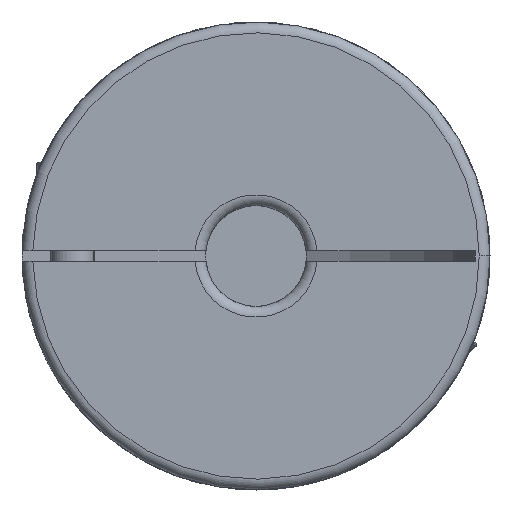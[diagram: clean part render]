
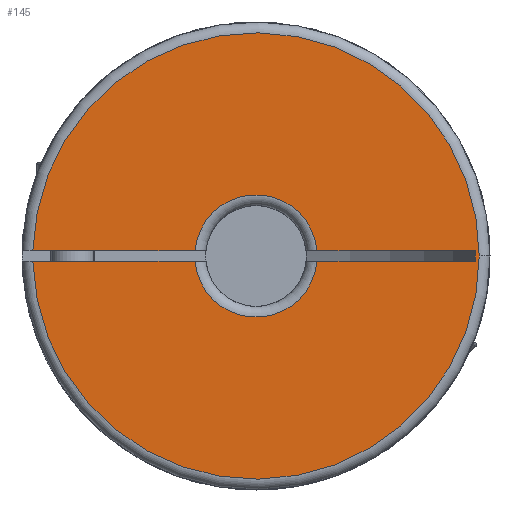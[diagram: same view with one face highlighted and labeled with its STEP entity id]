
A CAD part, front view. The second image highlights one B-rep face of the part: STEP entity #145.
In plain terms, the highlighted planar face has unit normal (0, -1, 0).
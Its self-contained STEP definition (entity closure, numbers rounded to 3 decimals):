
#145 = ADVANCED_FACE ( 'NONE', ( #8268 ), #6515, .F. ) ;
#190 = EDGE_CURVE ( 'NONE', #398, #6840, #6152, .T. ) ;
#200 = DIRECTION ( 'NONE',  ( -1., 0., 0. ) ) ;
#313 = AXIS2_PLACEMENT_3D ( 'NONE', #1148, #7334, #200 ) ;
#364 = CIRCLE ( 'NONE', #4212, 31. ) ;
#398 = VERTEX_POINT ( 'NONE', #9767 ) ;
#506 = EDGE_CURVE ( 'NONE', #3814, #9651, #7463, .T. ) ;
#574 = DIRECTION ( 'NONE',  ( 1., 0., 0. ) ) ;
#1030 = DIRECTION ( 'NONE',  ( 1., 0., 0. ) ) ;
#1148 = CARTESIAN_POINT ( 'NONE',  ( -8.5, -36.15, 0. ) ) ;
#1287 = DIRECTION ( 'NONE',  ( 1., 0., 0. ) ) ;
#1358 = DIRECTION ( 'NONE',  ( 1., 0., 0. ) ) ;
#1436 = ORIENTED_EDGE ( 'NONE', *, *, #506, .F. ) ;
#1501 = CARTESIAN_POINT ( 'NONE',  ( 8.467, -36.15, -0.75 ) ) ;
#1547 = VECTOR ( 'NONE', #3964, 1000. ) ;
#1947 = DIRECTION ( 'NONE',  ( 1., 0., 0. ) ) ;
#1951 = CARTESIAN_POINT ( 'NONE',  ( 0., -36.15, 0. ) ) ;
#2241 = DIRECTION ( 'NONE',  ( 1., 0., 0. ) ) ;
#2344 = VERTEX_POINT ( 'NONE', #4415 ) ;
#2455 = VERTEX_POINT ( 'NONE', #3996 ) ;
#2536 = VECTOR ( 'NONE', #1287, 1000. ) ;
#2567 = VECTOR ( 'NONE', #7828, 1000. ) ;
#2584 = AXIS2_PLACEMENT_3D ( 'NONE', #1951, #2637, #1030 ) ;
#2637 = DIRECTION ( 'NONE',  ( 0., -1., 0. ) ) ;
#2671 = ORIENTED_EDGE ( 'NONE', *, *, #8209, .F. ) ;
#2747 = CARTESIAN_POINT ( 'NONE',  ( -30.991, -36.15, 0.75 ) ) ;
#2840 = LINE ( 'NONE', #8609, #2536 ) ;
#2967 = CARTESIAN_POINT ( 'NONE',  ( 30.452, -36.15, -0.75 ) ) ;
#3003 = CARTESIAN_POINT ( 'NONE',  ( 30.452, -36.15, -0.75 ) ) ;
#3675 = LINE ( 'NONE', #9919, #8535 ) ;
#3747 = VERTEX_POINT ( 'NONE', #2747 ) ;
#3777 = ORIENTED_EDGE ( 'NONE', *, *, #8080, .T. ) ;
#3814 = VERTEX_POINT ( 'NONE', #1501 ) ;
#3964 = DIRECTION ( 'NONE',  ( 0., 0., -1. ) ) ;
#3996 = CARTESIAN_POINT ( 'NONE',  ( -30.991, -36.15, -0.75 ) ) ;
#4128 = EDGE_CURVE ( 'NONE', #3747, #6840, #3675, .T. ) ;
#4212 = AXIS2_PLACEMENT_3D ( 'NONE', #7911, #6198, #574 ) ;
#4316 = ORIENTED_EDGE ( 'NONE', *, *, #7320, .T. ) ;
#4369 = CIRCLE ( 'NONE', #7851, 8.5 ) ;
#4415 = CARTESIAN_POINT ( 'NONE',  ( 31., -36.15, 0. ) ) ;
#4506 = ORIENTED_EDGE ( 'NONE', *, *, #10055, .F. ) ;
#4667 = LINE ( 'NONE', #6273, #2567 ) ;
#4786 = ORIENTED_EDGE ( 'NONE', *, *, #7505, .T. ) ;
#5039 = CARTESIAN_POINT ( 'NONE',  ( -8.467, -36.15, 0.75 ) ) ;
#5315 = VERTEX_POINT ( 'NONE', #9870 ) ;
#5544 = VECTOR ( 'NONE', #9035, 1000. ) ;
#5895 = ORIENTED_EDGE ( 'NONE', *, *, #190, .F. ) ;
#6040 = DIRECTION ( 'NONE',  ( 0., -1., 0. ) ) ;
#6095 = VERTEX_POINT ( 'NONE', #6310 ) ;
#6145 = CARTESIAN_POINT ( 'NONE',  ( 0., -36.15, 0. ) ) ;
#6152 = CIRCLE ( 'NONE', #7467, 8.5 ) ;
#6198 = DIRECTION ( 'NONE',  ( 0., -1., 0. ) ) ;
#6273 = CARTESIAN_POINT ( 'NONE',  ( -8.5, -36.15, -0.75 ) ) ;
#6310 = CARTESIAN_POINT ( 'NONE',  ( 30.452, -36.15, 0.75 ) ) ;
#6343 = EDGE_LOOP ( 'NONE', ( #4506, #4316, #7444, #7299, #5895, #4786, #3777, #1436, #2671 ) ) ;
#6515 = PLANE ( 'NONE',  #313 ) ;
#6640 = CARTESIAN_POINT ( 'NONE',  ( -8.5, -36.15, -0.75 ) ) ;
#6840 = VERTEX_POINT ( 'NONE', #5039 ) ;
#6927 = DIRECTION ( 'NONE',  ( 0., -1., 0. ) ) ;
#6975 = LINE ( 'NONE', #2967, #1547 ) ;
#7299 = ORIENTED_EDGE ( 'NONE', *, *, #4128, .T. ) ;
#7320 = EDGE_CURVE ( 'NONE', #2455, #2344, #7798, .T. ) ;
#7334 = DIRECTION ( 'NONE',  ( 0., 1., 0. ) ) ;
#7444 = ORIENTED_EDGE ( 'NONE', *, *, #8203, .T. ) ;
#7463 = LINE ( 'NONE', #6640, #5544 ) ;
#7467 = AXIS2_PLACEMENT_3D ( 'NONE', #6145, #6040, #1358 ) ;
#7505 = EDGE_CURVE ( 'NONE', #398, #6095, #2840, .T. ) ;
#7798 = CIRCLE ( 'NONE', #2584, 31. ) ;
#7828 = DIRECTION ( 'NONE',  ( 1., 0., 0. ) ) ;
#7851 = AXIS2_PLACEMENT_3D ( 'NONE', #9370, #6927, #2241 ) ;
#7911 = CARTESIAN_POINT ( 'NONE',  ( 0., -36.15, 0. ) ) ;
#8080 = EDGE_CURVE ( 'NONE', #6095, #9651, #6975, .T. ) ;
#8203 = EDGE_CURVE ( 'NONE', #2344, #3747, #364, .T. ) ;
#8209 = EDGE_CURVE ( 'NONE', #5315, #3814, #4369, .T. ) ;
#8268 = FACE_OUTER_BOUND ( 'NONE', #6343, .T. ) ;
#8535 = VECTOR ( 'NONE', #1947, 1000. ) ;
#8609 = CARTESIAN_POINT ( 'NONE',  ( -8.5, -36.15, 0.75 ) ) ;
#9035 = DIRECTION ( 'NONE',  ( 1., 0., 0. ) ) ;
#9370 = CARTESIAN_POINT ( 'NONE',  ( 0., -36.15, 0. ) ) ;
#9651 = VERTEX_POINT ( 'NONE', #3003 ) ;
#9767 = CARTESIAN_POINT ( 'NONE',  ( 8.467, -36.15, 0.75 ) ) ;
#9870 = CARTESIAN_POINT ( 'NONE',  ( -8.467, -36.15, -0.75 ) ) ;
#9919 = CARTESIAN_POINT ( 'NONE',  ( -8.5, -36.15, 0.75 ) ) ;
#10055 = EDGE_CURVE ( 'NONE', #2455, #5315, #4667, .T. ) ;
